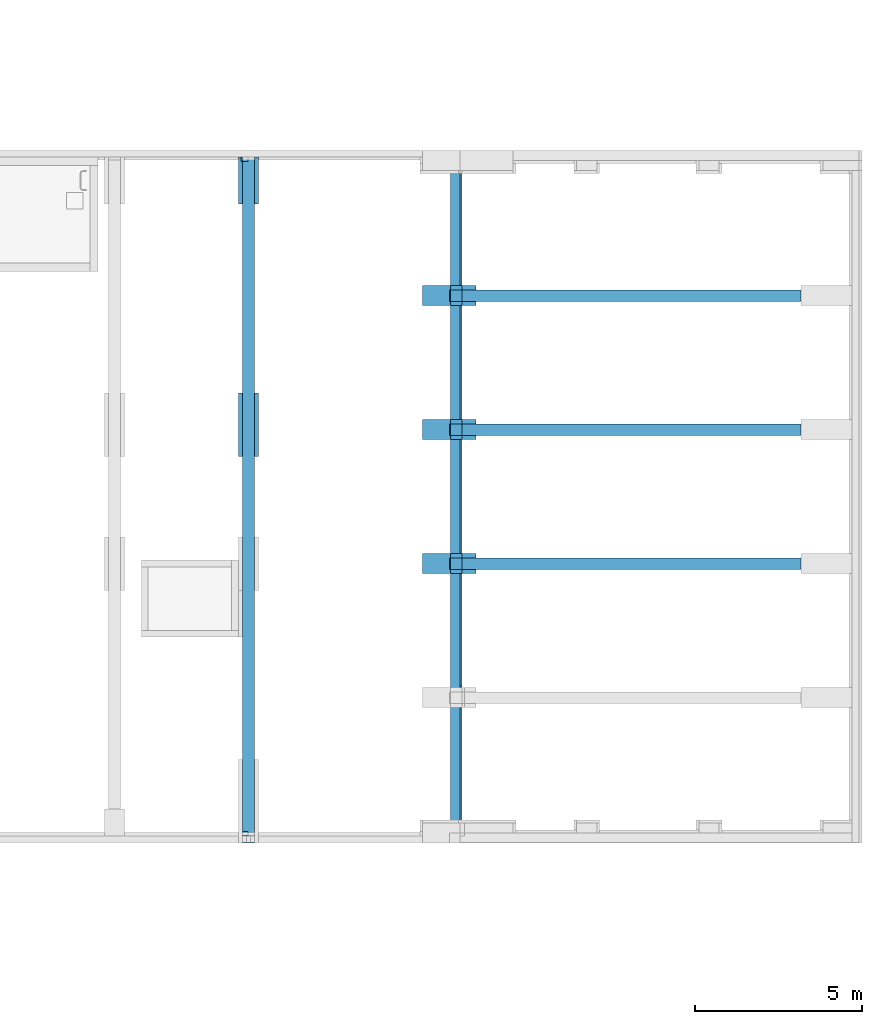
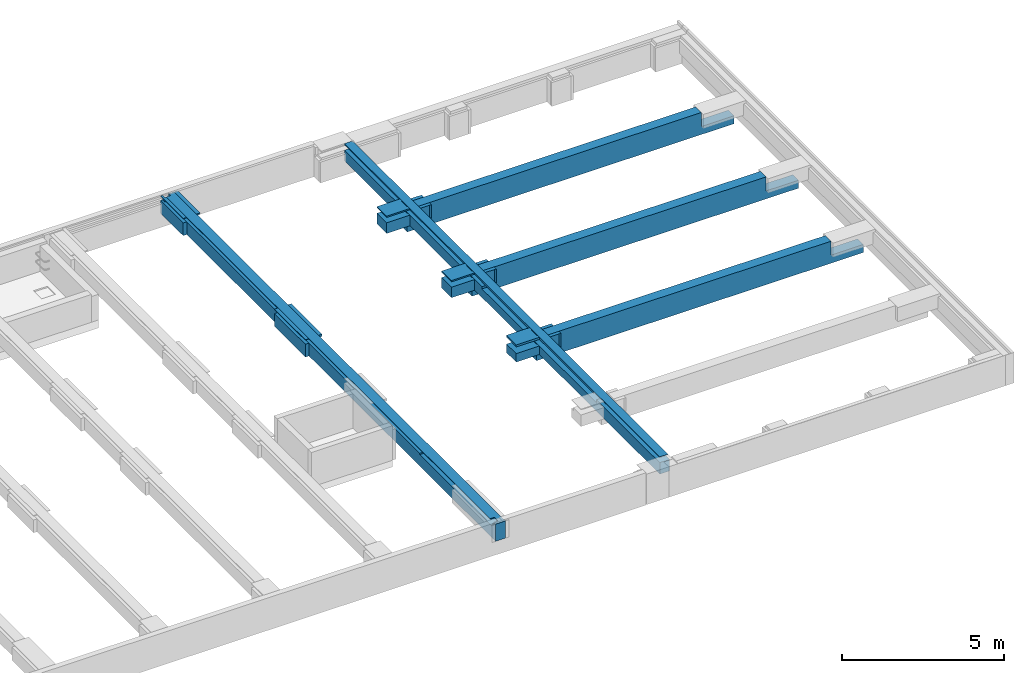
# One storey, part 8 of 17: 10 beams.
"""IFC2X3 building model written with IfcOpenShell, lengths in millimetres."""

from ifc_helpers import new_model, entity, si_unit, converted_unit, derived_unit, money_unit, direction, frame, origin_with_axes, place, context, subcontext, project, spatial, faceted_brep, material, type_object, element, save


model = new_model("IFC2X3")

# Units and contexts
model_context = context("Model", 3, precision=0.01, world=origin_with_axes(), true_north=direction((0.0, 1.0)))
body_context = subcontext(model_context, "Body", "Model", "MODEL_VIEW")
ifc_project = project(units=[si_unit("LENGTHUNIT", "METRE", prefix="MILLI"), si_unit("AREAUNIT", "SQUARE_METRE"), si_unit("VOLUMEUNIT", "CUBIC_METRE"), converted_unit("PLANEANGLEUNIT", "DEGREE", entity("IfcPlaneAngleMeasure", 0.0174532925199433), si_unit("PLANEANGLEUNIT", "RADIAN"), dimensions=[0, 0, 0, 0, 0, 0, 0]), money_unit("EUR"), converted_unit("TIMEUNIT", "Year", entity("IfcTimeMeasure", 31557600.0), si_unit("TIMEUNIT", "SECOND"), dimensions=[0, 0, 1, 0, 0, 0, 0]), si_unit("MASSUNIT", "GRAM", prefix="KILO"), si_unit("THERMODYNAMICTEMPERATUREUNIT", "DEGREE_CELSIUS"), si_unit("LUMINOUSINTENSITYUNIT", "LUMEN"), si_unit("ENERGYUNIT", "JOULE", prefix="MEGA"), derived_unit("THERMALCONDUCTANCEUNIT", [(si_unit("POWERUNIT", "WATT"), 1), (si_unit("LENGTHUNIT", "METRE"), -1), (si_unit("THERMODYNAMICTEMPERATUREUNIT", "KELVIN"), -1)]), derived_unit("SPECIFICHEATCAPACITYUNIT", [(si_unit("ENERGYUNIT", "JOULE"), 1), (si_unit("MASSUNIT", "GRAM", prefix="KILO"), -1), (si_unit("THERMODYNAMICTEMPERATUREUNIT", "KELVIN"), -1)]), derived_unit("MASSDENSITYUNIT", [(si_unit("MASSUNIT", "GRAM", prefix="KILO"), 1), (si_unit("VOLUMEUNIT", "CUBIC_METRE"), -1)])], contexts=[model_context])

# Site, building, storey
site_placement = place(None, origin_with_axes())
site = spatial("IfcSite", under=ifc_project, at=site_placement, Name="<site naam>", CompositionType="ELEMENT")
building_placement = place(site_placement, origin_with_axes())
building = spatial("IfcBuilding", under=site, at=building_placement, Name="<Naam gebouw>", CompositionType="ELEMENT")
storey_placement = place(building_placement, frame((0.0, 0.0, -1100.0), z_axis=(0.0, 0.0, 1.0), x_axis=(1.0, 0.0, 0.0)))
storey = spatial("IfcBuildingStorey", under=building, at=storey_placement, Name="-1 Fundering", CompositionType="ELEMENT", Elevation=-1100.0)

# Beams
ifc_material = material(Name="beton_gewapend C")
beam_type_1 = type_object("IfcBeamType", Name="beton_gewapend C 600 x 650", PredefinedType="BEAM")
beam_1_placement = place(storey_placement, frame((58800.00000000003, 8000.000000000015, 1070.0), z_axis=(0.0, 0.0, 1.0), x_axis=(0.0, 1.0, 0.0)))
element("IfcBeam", 1, at=beam_1_placement, inside=storey, type_object=beam_type_1, material=ifc_material, Name="28_Balk_beton_gewapend", ObjectType="BEAM", context=body_context, shape_type="Brep", body=[
    faceted_brep([(-174.9999999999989, 424.9999999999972, -650.0000000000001), (-174.9999999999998, 424.9999999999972, -119.9999999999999), (-174.9999999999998, 0.0, -120.0), (-174.9999999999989, 0.0, -650.055), (-174.9999999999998, 799.99999999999, -650.055), (-174.9999999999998, 799.99999999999, -330.0000000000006), (-174.9999999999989, 774.9999999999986, -330.0000000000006), (-174.9999999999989, 774.9999999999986, -650.0000000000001), (-300.0000000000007, 424.9999999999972, -650.0000000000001), (-299.9999999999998, 424.9999999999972, -119.9999999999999), (-299.9999999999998, 0.0, -120.0), (-299.9999999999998, 0.0, -650.055), (175.0000000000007, 0.0, -650.055), (175.0000000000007, 799.99999999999, -650.055), (-299.9999999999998, 1600.000000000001, -650.055), (300.0000000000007, 1600.000000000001, -650.055), (300.0000000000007, 0.0, -650.055), (175.0000000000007, 799.99999999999, -330.0000000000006), (175.0000000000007, 774.9999999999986, -330.0000000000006), (300.0000000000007, 774.9999999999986, -330.0000000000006), (300.0000000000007, 1600.000000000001, -330.0000000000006), (-299.9999999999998, 1600.000000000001, -330.0000000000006), (-300.0000000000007, 774.9999999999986, -330.0000000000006), (-300.0000000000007, 774.9999999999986, -650.0000000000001), (175.0000000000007, 0.0, -120.0), (175.0000000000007, 424.9999999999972, -120.0), (174.9999999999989, 424.9999999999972, -650.0000000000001), (174.9999999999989, 774.9999999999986, -650.0000000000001), (300.0000000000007, 424.9999999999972, -650.0000000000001), (300.0000000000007, 424.9999999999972, -120.0), (300.0000000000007, 0.0, -120.0), (300.0000000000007, 774.9999999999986, -650.0000000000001)], [[[0, 1, 2, 3, 4, 5, 6, 7]], [[8, 9, 1, 0]], [[9, 10, 2, 1]], [[3, 2, 10, 11]], [[12, 13, 4, 3, 11, 14, 15, 16]], [[13, 17, 5, 4]], [[17, 18, 19, 20, 21, 22, 6, 5]], [[7, 6, 22, 23]], [[23, 8, 0, 7]], [[11, 10, 9, 8, 23, 22, 21, 14]], [[12, 24, 25, 26, 27, 18, 17, 13]], [[14, 21, 20, 15]], [[28, 29, 30, 16, 15, 20, 19, 31]], [[16, 30, 24, 12]], [[31, 19, 18, 27]], [[25, 24, 30, 29]], [[26, 25, 29, 28]], [[28, 31, 27, 26]]]),
    faceted_brep([(175.0000000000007, 774.9999999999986, 0.0), (175.0000000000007, 774.9999999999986, -80.00000000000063), (300.0000000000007, 774.9999999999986, -80.00000000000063), (300.0000000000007, 774.9999999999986, 0.0), (175.0000000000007, 799.99999999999, 0.0), (175.0000000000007, 799.99999999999, -80.00000000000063), (-299.9999999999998, 1600.000000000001, -80.00000000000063), (300.0000000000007, 1600.000000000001, -80.00000000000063), (-174.9999999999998, 799.99999999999, -80.00000000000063), (-174.9999999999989, 774.9999999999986, -80.00000000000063), (-299.9999999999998, 774.9999999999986, -80.00000000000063), (300.0000000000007, 1600.000000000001, 0.0), (-174.9999999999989, 774.9999999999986, 0.0), (-174.9999999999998, 799.99999999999, 0.0), (-299.9999999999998, 1600.000000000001, 0.0), (-299.9999999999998, 774.9999999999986, 0.0)], [[[0, 1, 2, 3]], [[4, 5, 1, 0]], [[6, 7, 2, 1, 5, 8, 9, 10]], [[3, 2, 7, 11]], [[12, 13, 4, 0, 3, 11, 14, 15]], [[13, 8, 5, 4]], [[11, 7, 6, 14]], [[12, 9, 8, 13]], [[15, 10, 9, 12]], [[14, 6, 10, 15]]]),
])
beam_2_placement = place(storey_placement, frame((58800.00000000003, 12000.00000000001, 1070.0), z_axis=(0.0, 0.0, 1.0), x_axis=(0.0, 1.0, 0.0)))
element("IfcBeam", 2, at=beam_2_placement, inside=storey, type_object=beam_type_1, material=ifc_material, Name="28_Balk_beton_gewapend", ObjectType="BEAM", context=body_context, shape_type="Brep", body=[
    faceted_brep([(-174.9999999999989, 424.9999999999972, -650.0000000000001), (-174.9999999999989, 424.9999999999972, -119.9999999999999), (-174.9999999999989, 0.0, -120.0), (-174.9999999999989, 0.0, -650.055), (-175.0000000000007, 799.99999999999, -650.055), (-175.0000000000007, 799.99999999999, -249.9999999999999), (-175.0000000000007, 774.9999999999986, -250.0000000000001), (-174.9999999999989, 774.9999999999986, -650.0000000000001), (-300.0000000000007, 424.9999999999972, -650.0000000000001), (-300.0000000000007, 424.9999999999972, -119.9999999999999), (-300.0000000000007, 0.0, -120.0), (-300.0000000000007, 0.0, -650.055), (175.0000000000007, 0.0, -650.055), (175.0000000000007, 799.99999999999, -650.055), (-300.0000000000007, 1600.000000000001, -650.055), (300.0000000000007, 1600.000000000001, -650.055), (300.0000000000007, 0.0, -650.055), (175.0000000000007, 799.99999999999, -250.0), (175.0000000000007, 774.9999999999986, -250.0), (300.0000000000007, 774.9999999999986, -250.0), (300.0000000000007, 1600.000000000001, -249.9999999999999), (-300.0000000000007, 1600.000000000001, -250.0), (-300.0000000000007, 774.9999999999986, -250.0000000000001), (-300.0000000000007, 774.9999999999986, -650.0000000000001), (175.0000000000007, 0.0, -120.0), (175.0000000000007, 424.9999999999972, -120.0), (175.0000000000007, 424.9999999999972, -650.0000000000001), (175.0000000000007, 774.9999999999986, -650.0000000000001), (300.0000000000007, 424.9999999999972, -650.0000000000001), (300.0000000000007, 424.9999999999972, -120.0), (300.0000000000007, 0.0, -120.0), (300.0000000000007, 774.9999999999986, -650.0000000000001)], [[[0, 1, 2, 3, 4, 5, 6, 7]], [[8, 9, 1, 0]], [[9, 10, 2, 1]], [[3, 2, 10, 11]], [[12, 13, 4, 3, 11, 14, 15, 16]], [[13, 17, 5, 4]], [[17, 18, 19, 20, 21, 22, 6, 5]], [[7, 6, 22, 23]], [[23, 8, 0, 7]], [[11, 10, 9, 8, 23, 22, 21, 14]], [[12, 24, 25, 26, 27, 18, 17, 13]], [[14, 21, 20, 15]], [[28, 29, 30, 16, 15, 20, 19, 31]], [[16, 30, 24, 12]], [[31, 19, 18, 27]], [[25, 24, 30, 29]], [[26, 25, 29, 28]], [[28, 31, 27, 26]]]),
    faceted_brep([(175.0000000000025, 774.9999999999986, 0.0), (175.0000000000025, 774.9999999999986, -49.99999999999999), (300.0000000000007, 774.9999999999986, -49.99999999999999), (300.0000000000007, 774.9999999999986, 0.0), (175.0000000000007, 799.99999999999, 0.0), (175.0000000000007, 799.99999999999, -49.99999999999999), (-300.0000000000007, 1600.000000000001, -49.99999999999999), (300.0000000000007, 1600.000000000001, -50.00000000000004), (-175.0000000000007, 799.99999999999, -50.00000000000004), (-175.0000000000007, 774.9999999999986, -50.00000000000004), (-300.0000000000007, 774.9999999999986, -50.00000000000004), (300.0000000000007, 1600.000000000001, 0.0), (-175.0000000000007, 774.9999999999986, 0.0), (-175.0000000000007, 799.99999999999, 0.0), (-300.0000000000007, 1600.000000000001, 0.0), (-300.0000000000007, 774.9999999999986, 0.0)], [[[0, 1, 2, 3]], [[4, 5, 1, 0]], [[6, 7, 2, 1, 5, 8, 9, 10]], [[3, 2, 7, 11]], [[12, 13, 4, 0, 3, 11, 14, 15]], [[13, 8, 5, 4]], [[11, 7, 6, 14]], [[12, 9, 8, 13]], [[15, 10, 9, 12]], [[14, 6, 10, 15]]]),
])
beam_3_placement = place(storey_placement, frame((58800.00000000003, 16000.00000000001, 1070.0), z_axis=(0.0, 0.0, 1.0), x_axis=(0.0, 1.0, 0.0)))
element("IfcBeam", 3, at=beam_3_placement, inside=storey, type_object=beam_type_1, material=ifc_material, Name="28_Balk_beton_gewapend", ObjectType="BEAM", context=body_context, shape_type="Brep", body=[
    faceted_brep([(-174.9999999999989, 424.9999999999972, -650.0000000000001), (-175.0000000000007, 424.9999999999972, -119.9999999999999), (-175.0000000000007, 0.0, -120.0), (-174.9999999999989, 0.0, -650.055), (-175.0000000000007, 799.99999999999, -650.055), (-175.0000000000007, 799.99999999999, -249.9999999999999), (-175.0000000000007, 774.9999999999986, -250.0000000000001), (-174.9999999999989, 774.9999999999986, -650.0000000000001), (-300.0000000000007, 424.9999999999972, -650.0000000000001), (-300.0000000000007, 424.9999999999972, -119.9999999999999), (-300.0000000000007, 0.0, -120.0), (-300.0000000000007, 0.0, -650.055), (175.0000000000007, 0.0, -650.055), (175.0000000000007, 799.99999999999, -650.055), (-300.0000000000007, 1600.000000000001, -650.055), (300.0000000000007, 1600.000000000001, -650.055), (300.0000000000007, 0.0, -650.055), (175.0000000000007, 799.99999999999, -250.0), (175.0000000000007, 774.9999999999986, -250.0), (300.0000000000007, 774.9999999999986, -250.0), (300.0000000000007, 1600.000000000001, -249.9999999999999), (-300.0000000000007, 1600.000000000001, -250.0), (-300.0000000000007, 774.9999999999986, -250.0000000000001), (-300.0000000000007, 774.9999999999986, -650.0000000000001), (175.0000000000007, 0.0, -120.0), (175.0000000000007, 424.9999999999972, -120.0), (175.0000000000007, 424.9999999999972, -650.0000000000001), (175.0000000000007, 774.9999999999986, -650.0000000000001), (300.0000000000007, 424.9999999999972, -650.0000000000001), (300.0000000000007, 424.9999999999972, -120.0), (300.0000000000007, 0.0, -120.0), (300.0000000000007, 774.9999999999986, -650.0000000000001)], [[[0, 1, 2, 3, 4, 5, 6, 7]], [[8, 9, 1, 0]], [[9, 10, 2, 1]], [[3, 2, 10, 11]], [[12, 13, 4, 3, 11, 14, 15, 16]], [[13, 17, 5, 4]], [[17, 18, 19, 20, 21, 22, 6, 5]], [[7, 6, 22, 23]], [[23, 8, 0, 7]], [[11, 10, 9, 8, 23, 22, 21, 14]], [[12, 24, 25, 26, 27, 18, 17, 13]], [[14, 21, 20, 15]], [[28, 29, 30, 16, 15, 20, 19, 31]], [[16, 30, 24, 12]], [[31, 19, 18, 27]], [[25, 24, 30, 29]], [[26, 25, 29, 28]], [[28, 31, 27, 26]]]),
    faceted_brep([(175.0000000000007, 774.9999999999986, 0.0), (175.0000000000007, 774.9999999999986, -49.99999999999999), (300.0000000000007, 774.9999999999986, -49.99999999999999), (300.0000000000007, 774.9999999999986, 0.0), (175.0000000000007, 799.99999999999, 0.0), (175.0000000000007, 799.99999999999, -49.99999999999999), (-300.0000000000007, 1600.000000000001, -49.99999999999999), (300.0000000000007, 1600.000000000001, -50.00000000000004), (-175.0000000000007, 799.99999999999, -50.00000000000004), (-175.0000000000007, 774.9999999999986, -50.00000000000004), (-300.0000000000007, 774.9999999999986, -50.00000000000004), (300.0000000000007, 1600.000000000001, 0.0), (-175.0000000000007, 774.9999999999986, 0.0), (-175.0000000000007, 799.99999999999, 0.0), (-300.0000000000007, 1600.000000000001, 0.0), (-300.0000000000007, 774.9999999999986, 0.0)], [[[0, 1, 2, 3]], [[4, 5, 1, 0]], [[6, 7, 2, 1, 5, 8, 9, 10]], [[3, 2, 7, 11]], [[12, 13, 4, 0, 3, 11, 14, 15]], [[13, 8, 5, 4]], [[11, 7, 6, 14]], [[12, 9, 8, 13]], [[15, 10, 9, 12]], [[14, 6, 10, 15]]]),
])
beam_4_placement = place(storey_placement, frame((52000.00000000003, 13100.00000000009, 1070.0), z_axis=(0.0, 0.0, 1.0), x_axis=(-1.0, 0.0, 0.0)))
element("IfcBeam", 4, at=beam_4_placement, inside=storey, type_object=beam_type_1, material=ifc_material, Name="28_Balk_beton_gewapend", ObjectType="BEAM", context=body_context, shape_type="Brep", body=[
    faceted_brep([(299.9999999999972, 0.0, -650.0000000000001), (299.9999999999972, 0.0, -170.0), (174.9999999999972, 0.0, -170.0), (174.9999999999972, 0.0, -650.0000000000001), (299.9999999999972, 1905.54614990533, -650.0000000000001), (299.9999999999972, 1905.54614990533, -170.0), (174.9999999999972, 1905.54614990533, -170.0), (174.9999999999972, 1905.54614990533, -650.0000000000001)], [[[0, 1, 2, 3]], [[4, 5, 1, 0]], [[5, 6, 2, 1]], [[3, 2, 6, 7]], [[7, 4, 0, 3]], [[7, 6, 5, 4]]]),
    faceted_brep([(-174.9999999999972, 0.0, -650.0000000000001), (-174.9999999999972, 0.0, -250.0000000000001), (-299.9999999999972, 0.0, -250.0), (-299.9999999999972, 0.0, -650.0000000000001), (-174.9999999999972, 1850.000000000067, -330.0000000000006), (-174.9999999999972, 1850.000000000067, -250.0), (-174.9999999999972, 1905.54614990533, -650.0000000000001), (-174.9999999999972, 1905.54614990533, -330.0000000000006), (-299.9999999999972, 1850.000000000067, -250.0), (-299.9999999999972, 1850.000000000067, -330.0000000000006), (-299.9999999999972, 1905.54614990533, -330.0000000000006), (-299.9999999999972, 1905.54614990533, -650.0000000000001)], [[[0, 1, 2, 3]], [[4, 5, 1, 0, 6, 7]], [[5, 8, 2, 1]], [[3, 2, 8, 9, 10, 11]], [[0, 3, 11, 6]], [[9, 8, 5, 4]], [[11, 10, 7, 6]], [[7, 10, 9, 4]]]),
    faceted_brep([(-299.9999999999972, 1905.54614990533, -80.00000000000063), (-299.9999999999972, 1850.000000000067, -80.00000000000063), (-299.9999999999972, 1850.000000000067, -49.99999999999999), (-299.9999999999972, 0.0, -49.99999999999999), (-299.9999999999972, 0.0, 0.0), (-299.9999999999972, 1905.54614990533, 0.0), (-174.9999999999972, 1905.54614990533, -80.00000000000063), (-174.9999999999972, 1850.000000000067, -80.00000000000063), (-174.9999999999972, 1850.000000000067, -49.99999999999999), (-174.9999999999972, 0.0, -50.00000000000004), (-174.9999999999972, 0.0, 0.0), (-174.9999999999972, 1905.54614990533, 0.0)], [[[0, 1, 2, 3, 4, 5]], [[6, 7, 1, 0]], [[8, 2, 1, 7]], [[8, 9, 3, 2]], [[4, 3, 9, 10]], [[11, 5, 4, 10]], [[11, 6, 0, 5]], [[9, 8, 7, 6, 11, 10]]]),
    faceted_brep([(174.9999999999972, 1905.54614990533, 0.0), (174.9999999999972, 1905.54614990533, -20.00000000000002), (174.9999999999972, 0.0, -20.00000000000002), (174.9999999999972, 0.0, 0.0), (299.9999999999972, 1905.54614990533, 0.0), (299.9999999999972, 1905.54614990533, -20.00000000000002), (299.9999999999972, 0.0, -20.00000000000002), (299.9999999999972, 0.0, 0.0)], [[[0, 1, 2, 3]], [[4, 5, 1, 0]], [[5, 6, 2, 1]], [[3, 2, 6, 7]], [[3, 7, 4, 0]], [[7, 6, 5, 4]]]),
])
beam_5_placement = place(storey_placement, frame((52000.00000000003, 20335.00000000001, 1070.0), z_axis=(0.0, 0.0, 1.0), x_axis=(-1.0, 0.0, 0.0)))
element("IfcBeam", 5, at=beam_5_placement, inside=storey, type_object=beam_type_1, material=ifc_material, Name="28_Balk_beton_gewapend", ObjectType="BEAM", context=body_context, shape_type="Brep", body=[
    faceted_brep([(174.9999999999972, 200.0000000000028, -119.9999999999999), (225.0000009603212, 200.0000000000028, -120.0), (225.0000009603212, 334.9934376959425, -120.0), (174.9999999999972, 334.9934376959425, -120.0), (299.9999999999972, 200.0000000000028, -170.0), (225.0000009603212, 200.0000000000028, -170.0), (174.9999999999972, 200.0000000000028, -650.0000000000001), (299.9999999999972, 200.0000000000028, -650.0000000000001), (225.0000009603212, 334.9934376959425, -170.0), (174.9999999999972, 334.9934376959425, -170.0), (174.9999999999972, 1600.000000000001, -170.0), (174.9999999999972, 1600.000000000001, -650.0000000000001), (299.9999999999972, 1600.000000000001, -170.0), (299.9999999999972, 1600.000000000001, -650.0000000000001)], [[[0, 1, 2, 3]], [[4, 5, 1, 0, 6, 7]], [[8, 2, 1, 5]], [[8, 9, 3, 2]], [[3, 9, 10, 11, 6, 0]], [[12, 10, 9, 8, 5, 4]], [[11, 13, 7, 6]], [[13, 12, 4, 7]], [[11, 10, 12, 13]]]),
    faceted_brep([(-299.9999999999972, 385.0453154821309, -49.99999999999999), (-299.9999999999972, 385.0453154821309, -250.0), (-299.9999999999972, 1600.000000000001, -250.0), (-299.9999999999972, 1600.000000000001, -650.0000000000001), (-299.9999999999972, 200.0000000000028, -650.0000000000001), (-299.9999999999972, 200.0000000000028, 0.0), (-299.9999999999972, 1600.000000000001, 0.0), (-299.9999999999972, 1600.000000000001, -49.99999999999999), (-174.9999999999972, 385.0453154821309, -250.0), (-174.9999999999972, 385.0453154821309, -49.99999999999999), (-174.9999999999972, 1600.000000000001, -250.0), (-174.9999999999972, 1600.000000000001, -650.0000000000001), (-174.9999999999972, 200.0000000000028, -650.0000000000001), (-174.9999999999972, 200.0000000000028, 0.0), (-174.9999999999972, 1600.000000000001, 0.0), (-174.9999999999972, 1600.000000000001, -49.99999999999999)], [[[0, 1, 2, 3, 4, 5, 6, 7]], [[8, 1, 0, 9]], [[10, 2, 1, 8]], [[3, 2, 10, 11]], [[3, 11, 12, 4]], [[4, 12, 13, 5]], [[14, 6, 5, 13]], [[14, 15, 7, 6]], [[9, 0, 7, 15]], [[8, 9, 15, 14, 13, 12, 11, 10]]]),
    faceted_brep([(174.9999999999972, 1600.000000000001, 0.0), (174.9999999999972, 1600.000000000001, -20.00000000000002), (174.9999999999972, 334.9934376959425, -20.00000000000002), (174.9999999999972, 334.9934742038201, 0.0), (299.9999999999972, 1600.000000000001, 0.0), (299.9999999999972, 1600.000000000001, -20.00000000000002), (225.0000009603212, 200.0000000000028, -20.00000000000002), (225.0000009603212, 334.9934376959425, -20.00000000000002), (299.9999999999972, 200.0000000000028, -20.00000000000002), (225.0000009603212, 334.9934742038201, 0.0), (225.0000009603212, 200.0000000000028, 0.0), (299.9999999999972, 200.0000000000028, 0.0)], [[[0, 1, 2, 3]], [[4, 5, 1, 0]], [[6, 7, 2, 1, 5, 8]], [[3, 2, 7, 9]], [[3, 9, 10, 11, 4, 0]], [[11, 8, 5, 4]], [[9, 7, 6, 10]], [[10, 6, 8, 11]]]),
])
beam_type_2 = type_object("IfcBeamType", Name="beton_gewapend C 350 x 950", PredefinedType="BEAM")
beam_6_placement = place(storey_placement, frame((58000.00000000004, 8000.000000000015, 1070.0), z_axis=(0.0, 0.0, 1.0), x_axis=(0.0, -1.0, 0.0)))
element("IfcBeam", 6, at=beam_6_placement, inside=storey, type_object=beam_type_2, material=ifc_material, Name="28_Balk_beton_gewapend", ObjectType="BEAM", context=body_context, shape_type="Brep", body=[
    faceted_brep([(-174.9999999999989, 374.9999999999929, -650.0000000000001), (-175.0000000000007, 374.9999999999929, -120.0), (-175.0000000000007, 10489.99999999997, -120.0), (-174.9999999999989, 10489.99999999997, -650.0000000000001), (-175.0000000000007, 11649.99999999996, -650.0000000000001), (-175.0000000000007, 11649.99999999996, -949.9999999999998), (-175.0000000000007, 0.0, -949.9999999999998), (-175.0000000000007, 0.0, -330.0000000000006), (-175.0000000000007, 24.99999999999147, -330.0000000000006), (-174.9999999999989, 24.99999999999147, -650.0000000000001), (174.9999999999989, 374.9999999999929, -650.0000000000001), (174.9999999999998, 374.9999999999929, -120.0), (174.9999999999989, 10489.99999999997, -120.0), (174.999999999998, 10489.99999999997, -650.0000000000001), (174.9999999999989, 11649.99999999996, -650.0000000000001), (174.9999999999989, 11649.99999999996, -949.9999999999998), (174.9999999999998, 0.0, -949.9999999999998), (174.9999999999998, 0.0, -330.0000000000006), (174.9999999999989, 24.99999999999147, -330.0000000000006), (174.9999999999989, 24.99999999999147, -650.0000000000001)], [[[0, 1, 2, 3, 4, 5, 6, 7, 8, 9]], [[10, 11, 1, 0]], [[11, 12, 2, 1]], [[3, 2, 12, 13]], [[4, 3, 13, 14]], [[14, 15, 5, 4]], [[6, 5, 15, 16]], [[16, 17, 7, 6]], [[17, 18, 8, 7]], [[9, 8, 18, 19]], [[0, 9, 19, 10]], [[13, 12, 11, 10, 19, 18, 17, 16, 15, 14]]]),
    faceted_brep([(174.9999999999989, 24.99999999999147, 0.0), (174.9999999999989, 24.99999999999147, -80.00000000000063), (-175.0000000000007, 24.99999999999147, -80.00000000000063), (-175.0000000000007, 24.99999999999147, 0.0), (174.9999999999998, 0.0, 0.0), (174.9999999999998, 0.0, -80.00000000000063), (-175.0000000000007, 0.0, -80.00000000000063), (-175.0000000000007, 0.0, 0.0)], [[[0, 1, 2, 3]], [[4, 5, 1, 0]], [[5, 6, 2, 1]], [[3, 2, 6, 7]], [[0, 3, 7, 4]], [[7, 6, 5, 4]]]),
])
beam_7_placement = place(storey_placement, frame((58000.00000000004, 12000.00000000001, 1070.0), z_axis=(0.0, 0.0, 1.0), x_axis=(0.0, -1.0, 0.0)))
element("IfcBeam", 7, at=beam_7_placement, inside=storey, type_object=beam_type_2, material=ifc_material, Name="28_Balk_beton_gewapend", ObjectType="BEAM", context=body_context, shape_type="Brep", body=[
    faceted_brep([(-175.0000000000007, 374.9999999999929, -650.0000000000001), (-175.0000000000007, 374.9999999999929, -120.0), (-175.0000000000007, 10489.99999999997, -120.0), (-175.0000000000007, 10489.99999999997, -650.0000000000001), (-175.0000000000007, 11649.99999999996, -650.0000000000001), (-175.0000000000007, 11649.99999999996, -949.9999999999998), (-175.0000000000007, 0.0, -949.9999999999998), (-175.0000000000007, 0.0, -250.0), (-175.0000000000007, 24.99999999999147, -250.0), (-175.0000000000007, 24.99999999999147, -650.0000000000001), (174.9999999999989, 374.9999999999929, -650.0000000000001), (174.9999999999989, 374.9999999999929, -120.0), (174.9999999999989, 10489.99999999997, -120.0), (174.9999999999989, 10489.99999999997, -650.0000000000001), (174.9999999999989, 11649.99999999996, -650.0000000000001), (174.9999999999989, 11649.99999999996, -949.9999999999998), (175.0000000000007, 0.0, -949.9999999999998), (175.0000000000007, 0.0, -250.0), (175.0000000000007, 24.99999999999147, -250.0000000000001), (174.9999999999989, 24.99999999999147, -650.0000000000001)], [[[0, 1, 2, 3, 4, 5, 6, 7, 8, 9]], [[10, 11, 1, 0]], [[11, 12, 2, 1]], [[3, 2, 12, 13]], [[4, 3, 13, 14]], [[14, 15, 5, 4]], [[6, 5, 15, 16]], [[16, 17, 7, 6]], [[17, 18, 8, 7]], [[9, 8, 18, 19]], [[0, 9, 19, 10]], [[13, 12, 11, 10, 19, 18, 17, 16, 15, 14]]]),
    faceted_brep([(175.0000000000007, 24.99999999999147, 0.0), (175.0000000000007, 24.99999999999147, -50.00000000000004), (-175.0000000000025, 24.99999999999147, -49.99999999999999), (-175.0000000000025, 24.99999999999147, 0.0), (175.0000000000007, 0.0, 0.0), (175.0000000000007, 0.0, -50.00000000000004), (-175.0000000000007, 0.0, -49.99999999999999), (-175.0000000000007, 0.0, 0.0)], [[[0, 1, 2, 3]], [[4, 5, 1, 0]], [[5, 6, 2, 1]], [[3, 2, 6, 7]], [[0, 3, 7, 4]], [[7, 6, 5, 4]]]),
])
beam_8_placement = place(storey_placement, frame((58000.00000000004, 16000.00000000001, 1070.0), z_axis=(0.0, 0.0, 1.0), x_axis=(0.0, -1.0, 0.0)))
element("IfcBeam", 8, at=beam_8_placement, inside=storey, type_object=beam_type_2, material=ifc_material, Name="28_Balk_beton_gewapend", ObjectType="BEAM", context=body_context, shape_type="Brep", body=[
    faceted_brep([(-175.0000000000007, 374.9999999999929, -650.0000000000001), (-175.0000000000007, 374.9999999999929, -120.0), (-175.0000000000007, 10489.99999999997, -120.0), (-175.0000000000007, 10489.99999999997, -650.0000000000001), (-175.0000000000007, 11649.99999999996, -650.0000000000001), (-175.0000000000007, 11649.99999999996, -949.9999999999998), (-175.0000000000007, 0.0, -949.9999999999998), (-175.0000000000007, 0.0, -250.0), (-175.0000000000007, 24.99999999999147, -250.0), (-175.0000000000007, 24.99999999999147, -650.0000000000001), (174.9999999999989, 374.9999999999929, -650.0000000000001), (175.0000000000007, 374.9999999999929, -120.0), (174.9999999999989, 10489.99999999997, -120.0), (174.9999999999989, 10489.99999999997, -650.0000000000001), (174.9999999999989, 11649.99999999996, -650.0000000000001), (174.9999999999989, 11649.99999999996, -949.9999999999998), (175.0000000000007, 0.0, -949.9999999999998), (175.0000000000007, 0.0, -250.0), (175.0000000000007, 24.99999999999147, -250.0000000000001), (174.9999999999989, 24.99999999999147, -650.0000000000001)], [[[0, 1, 2, 3, 4, 5, 6, 7, 8, 9]], [[10, 11, 1, 0]], [[11, 12, 2, 1]], [[3, 2, 12, 13]], [[4, 3, 13, 14]], [[14, 15, 5, 4]], [[6, 5, 15, 16]], [[16, 17, 7, 6]], [[17, 18, 8, 7]], [[9, 8, 18, 19]], [[0, 9, 19, 10]], [[13, 12, 11, 10, 19, 18, 17, 16, 15, 14]]]),
    faceted_brep([(175.0000000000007, 24.99999999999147, 0.0), (175.0000000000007, 24.99999999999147, -50.00000000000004), (-175.0000000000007, 24.99999999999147, -49.99999999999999), (-175.0000000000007, 24.99999999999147, 0.0), (175.0000000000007, 0.0, 0.0), (175.0000000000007, 0.0, -50.00000000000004), (-175.0000000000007, 0.0, -49.99999999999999), (-175.0000000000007, 0.0, 0.0)], [[[0, 1, 2, 3]], [[4, 5, 1, 0]], [[5, 6, 2, 1]], [[3, 2, 6, 7]], [[0, 3, 7, 4]], [[7, 6, 5, 4]]]),
])
beam_type_3 = type_object("IfcBeamType", Name="beton_gewapend C 350 x 650", PredefinedType="BEAM")
beam_9_placement = place(storey_placement, frame((58025.00000000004, -334.9999999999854, 1070.0), z_axis=(0.0, 0.0, 1.0), x_axis=(1.0, 0.0, 0.0)))
element("IfcBeam", 9, at=beam_9_placement, inside=storey, type_object=beam_type_3, material=ifc_material, Name="28_Balk_beton_gewapend", ObjectType="BEAM", context=body_context, shape_type="Brep", body=[
    faceted_brep([(0.0, 20070.0, 0.0), (292.7828447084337, 20070.0, 0.0), (292.7828447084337, 20070.0, -120.0), (350.0000000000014, 20070.0, -120.0), (350.0000000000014, 20070.0, -650.0000000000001), (0.0, 20070.0, -650.0000000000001), (0.0, 20070.0, -250.0), (242.7829708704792, 20070.0, -250.0), (242.7829708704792, 20070.0, -49.99999999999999), (0.0, 20070.0, -49.99999999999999), (0.0, 600.0000000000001, 0.0), (292.7828447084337, 600.0000000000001, 0.0), (292.7828447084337, 4685.045365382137, -120.0), (292.7828447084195, 600.0000000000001, -19.99999999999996), (292.7828447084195, 4685.045365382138, -19.99999999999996), (350.0000000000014, 4685.045365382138, -120.0), (350.0000000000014, 4685.045365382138, -220.0), (350.0000000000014, 600.0000000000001, -220.0), (350.0000000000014, 600.0000000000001, -650.0000000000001), (0.0, 600.0000000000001, -650.0000000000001), (0.0, 11585.00000000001, -330.0000000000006), (0.0, 11585.00000000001, -250.0), (0.0, 600.0000000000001, -220.0), (0.0, 4510.0, -220.0), (0.0, 4510.0, -330.0000000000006), (242.7829708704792, 11585.00000000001, -250.0), (242.7829708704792, 4685.045365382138, -80.00000000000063), (242.7829708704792, 11585.00000000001, -80.00000000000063), (242.7829708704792, 11585.00000000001, -49.99999999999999), (242.7829708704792, 11585.00000000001, -330.0000000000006), (242.7829708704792, 4510.0, -330.0000000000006), (242.7829708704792, 4510.0, -220.0), (242.7829708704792, 4685.045365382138, -220.0), (0.0, 11585.00000000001, -49.99999999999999), (0.0, 11585.00000000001, -80.00000000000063), (0.0, 4685.045365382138, -80.00000000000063), (0.0, 4685.045365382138, -19.99999999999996), (0.0, 600.0000000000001, -20.00000000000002)], [[[0, 1, 2, 3, 4, 5, 6, 7, 8, 9]], [[10, 11, 1, 0]], [[12, 2, 1, 11, 13, 14]], [[12, 15, 3, 2]], [[4, 3, 15, 16, 17, 18]], [[5, 4, 18, 19]], [[20, 21, 6, 5, 19, 22, 23, 24]], [[25, 7, 6, 21]], [[26, 27, 28, 8, 7, 25, 29, 30, 31, 32]], [[33, 9, 8, 28]], [[9, 33, 34, 35, 36, 37, 10, 0]], [[37, 13, 11, 10]], [[36, 14, 13, 37]], [[15, 12, 14, 36, 35, 26, 32, 16]], [[32, 31, 23, 22, 17, 16]], [[18, 17, 22, 19]], [[29, 25, 21, 20]], [[24, 23, 31, 30]], [[29, 20, 24, 30]], [[35, 34, 27, 26]], [[28, 27, 34, 33]]]),
])
beam_10_placement = place(storey_placement, frame((52000.00000000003, 20335.00000000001, 1070.0), z_axis=(0.0, 0.0, 1.0), x_axis=(-1.0, 0.0, 0.0)))
element("IfcBeam", 10, at=beam_10_placement, inside=storey, type_object=beam_type_3, material=ifc_material, Name="28_Balk_beton_gewapend", ObjectType="BEAM", context=body_context, shape_type="Brep", body=[
    faceted_brep([(-174.9999999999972, 9084.999999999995, -49.99999999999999), (14.99999999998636, 9084.999999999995, -49.99999999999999), (14.99999999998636, 385.0453154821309, -49.99999999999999), (-174.9999999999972, 385.0453154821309, -49.99999999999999), (-174.9999999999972, 9084.999999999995, -80.00000000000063), (14.99999999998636, 9084.999999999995, -80.00000000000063), (14.99999999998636, 334.9934376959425, -170.0), (14.99999999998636, 385.0453154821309, -170.0), (14.99999999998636, 15984.95463461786, -80.00000000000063), (14.99999999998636, 15984.95463461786, -20.00000000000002), (14.99999999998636, 334.9934376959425, -20.00000000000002), (21.00006131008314, 385.0453154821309, -170.0), (21.00006131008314, 385.0453154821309, -250.0), (-174.9999999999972, 385.0453154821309, -250.0), (-175.0000000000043, 20670.0, 0.0), (-175.0000000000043, 20670.0, -650.0000000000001), (-174.9999999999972, 200.0000000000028, -650.0000000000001), (-174.9999999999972, 200.0000000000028, 0.0), (-174.9999999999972, 15984.95463461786, -80.00000000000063), (-174.9999999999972, 9084.999999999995, -250.0), (-174.9999999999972, 9084.999999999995, -330.0000000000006), (-174.9999999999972, 16160.0, -330.0000000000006), (-174.9999999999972, 16160.0, -220.0), (-174.9999999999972, 20459.99999999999, -220.0), (-174.9999999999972, 20459.99999999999, -19.99999999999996), (-174.9999999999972, 15984.95463461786, -19.99999999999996), (21.00006131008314, 15984.95463461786, -170.0), (174.9999999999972, 334.9934376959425, -170.0), (174.9999999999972, 15984.95463461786, -170.0), (174.9999999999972, 20334.99340118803, -19.99999999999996), (174.9999999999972, 334.9934376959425, -20.00000000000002), (21.00006131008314, 334.9934376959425, -20.00000000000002), (21.00006131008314, 20459.99999999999, -19.99999999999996), (21.00006131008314, 20334.99340118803, -19.99999999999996), (21.00006131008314, 334.9934376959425, -120.0), (174.9999999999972, 334.9934376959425, -120.0), (21.00006131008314, 15984.95463461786, -220.0), (21.00006131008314, 16160.0, -220.0), (21.00006131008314, 16160.0, -330.0000000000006), (21.00006131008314, 9084.999999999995, -330.0000000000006), (21.00006131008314, 9084.999999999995, -250.0), (174.9999999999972, 20670.0, -650.0000000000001), (174.9999999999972, 20670.0, 0.0), (174.9999999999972, 200.0000000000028, -650.0000000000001), (174.9999999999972, 200.0000000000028, -119.9999999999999), (21.00006131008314, 200.0000000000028, -120.0), (21.00006131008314, 200.0000000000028, 0.0), (21.00006131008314, 334.9934742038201, 0.0), (174.9999999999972, 334.9934742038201, 0.0), (174.9999999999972, 20334.99340118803, 0.0), (21.00006131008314, 20334.99340118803, 0.0), (21.00006131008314, 20559.99343769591, 0.0), (174.9999999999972, 20559.99343769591, 0.0), (174.9999999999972, 15984.95463461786, -220.0), (174.9999999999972, 20459.99999999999, -220.0), (174.9999999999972, 20459.99999999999, -120.0), (21.00006131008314, 20459.99999999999, -120.0), (174.9999999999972, 20559.99343769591, -120.0), (21.00006131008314, 20559.99343769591, -120.0)], [[[0, 1, 2, 3]], [[4, 5, 1, 0]], [[6, 7, 2, 1, 5, 8, 9, 10]], [[2, 7, 11, 12, 13, 3]], [[14, 15, 16, 17], [18, 4, 0, 3, 13, 19, 20, 21, 22, 23, 24, 25]], [[18, 8, 5, 4]], [[26, 11, 7, 6, 27, 28]], [[25, 9, 8, 18]], [[29, 30, 31, 10, 9, 25, 24, 32, 33]], [[10, 31, 34, 35, 27, 6]], [[12, 11, 26, 36, 37, 38, 39, 40]], [[40, 19, 13, 12]], [[41, 15, 14, 42]], [[15, 41, 43, 16]], [[43, 44, 45, 46, 17, 16]], [[46, 47, 48, 49, 50, 51, 52, 42, 14, 17]], [[20, 19, 40, 39]], [[38, 21, 20, 39]], [[38, 37, 22, 21]], [[22, 37, 36, 53, 54, 23]], [[55, 56, 32, 24, 23, 54]], [[28, 27, 35, 44, 43, 41, 42, 52, 57, 55, 54, 53]], [[36, 26, 28, 53]], [[48, 30, 29, 49]], [[47, 31, 30, 48]], [[58, 51, 50, 33, 32, 56]], [[33, 50, 49, 29]], [[45, 34, 31, 47, 46]], [[44, 35, 34, 45]], [[57, 52, 51, 58]], [[58, 56, 55, 57]]]),
])

save(model, "model.ifc")
